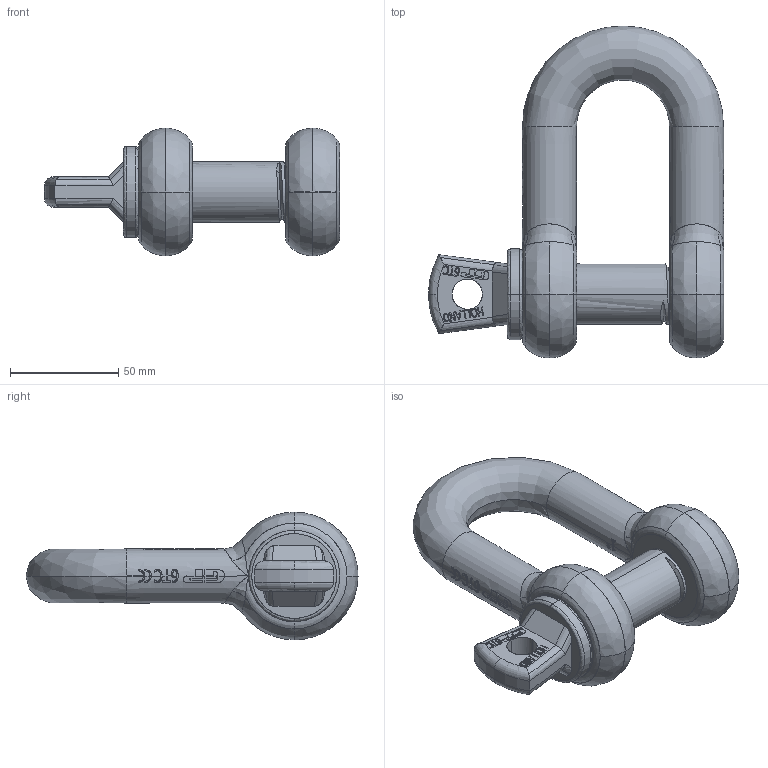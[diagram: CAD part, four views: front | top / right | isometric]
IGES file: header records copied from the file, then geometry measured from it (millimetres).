
Start section: START RECORD GO HERE.
Global section: file name: 8,5.igs; native system: Solidworks 2009      A Version 5 Release 17 ; preprocessor: Solidworks                 ; author: v.b.; organization: P4; date: 20090807.081758; units: millimetre
Bounding box: 136.5 x 153.5 x 59 mm (x, y, z)
Surface area: 51188.3 mm2 (no closed solid volume)
Topology: 0 solids, 0 shells, 613 faces, 4017 edges, 4009 vertices
Faces by surface type: bspline 264, plane 220, revolution 129
